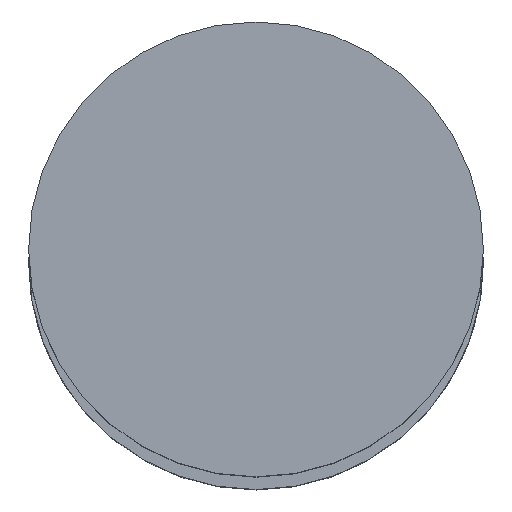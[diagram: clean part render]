
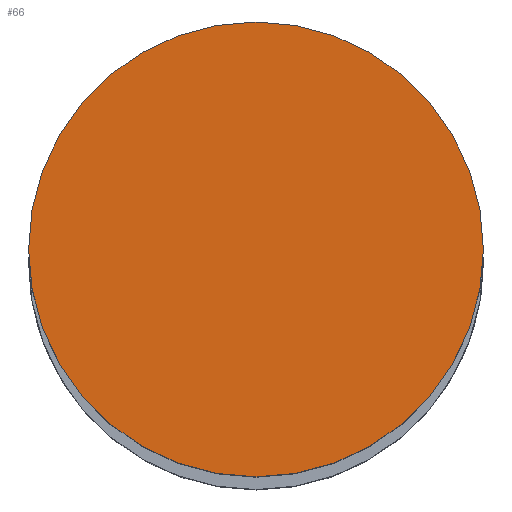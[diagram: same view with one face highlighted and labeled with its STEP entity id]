
A CAD part, top view. The second image highlights one B-rep face of the part: STEP entity #66.
In plain terms, the highlighted planar face has unit normal (0, 0, 1).
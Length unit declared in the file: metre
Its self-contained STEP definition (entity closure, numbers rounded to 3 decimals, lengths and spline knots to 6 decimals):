
#66=ADVANCED_FACE('25:217',(#141),#142,.T.);
#141=FACE_OUTER_BOUND('',#230,.T.);
#142=PLANE('',#231);
#230=EDGE_LOOP('',(#325,#326));
#231=AXIS2_PLACEMENT_3D('',#327,#328,#329);
#325=ORIENTED_EDGE('',*,*,#501,.F.);
#326=ORIENTED_EDGE('',*,*,#503,.F.);
#327=CARTESIAN_POINT('',(0.0,0.0,3.164));
#328=DIRECTION('',(0.0,0.0,1.0));
#329=DIRECTION('',(1.0,0.0,0.0));
#501=EDGE_CURVE('',#594,#590,#596,.F.);
#503=EDGE_CURVE('',#590,#594,#598,.F.);
#590=VERTEX_POINT('',#713);
#594=VERTEX_POINT('',#718);
#596=CIRCLE('',#721,0.0155);
#598=CIRCLE('',#723,0.0155);
#713=CARTESIAN_POINT('',(0.015408,0.000095,3.164));
#718=CARTESIAN_POINT('',(-0.015592,0.000095,3.164));
#721=AXIS2_PLACEMENT_3D('',#854,#855,#856);
#723=AXIS2_PLACEMENT_3D('',#857,#858,#859);
#854=CARTESIAN_POINT('',(-0.000092,0.000095,3.164));
#855=DIRECTION('',(0.0,0.0,1.0));
#856=DIRECTION('',(1.0,0.0,0.0));
#857=CARTESIAN_POINT('',(-0.000092,0.000095,3.164));
#858=DIRECTION('',(0.0,0.0,1.0));
#859=DIRECTION('',(1.0,0.0,0.0));
